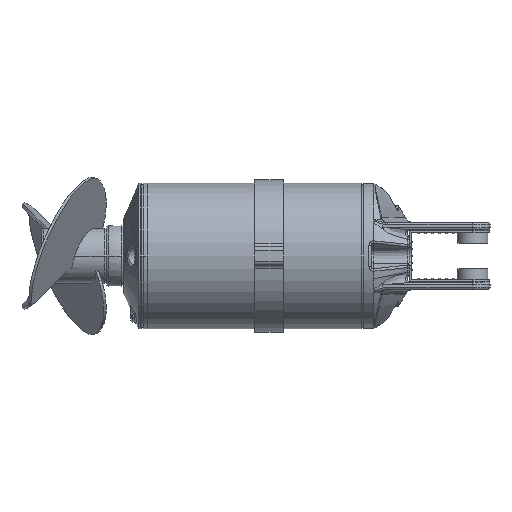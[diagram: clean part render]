
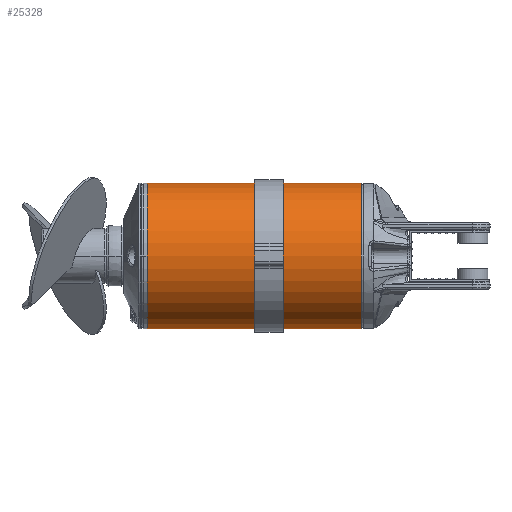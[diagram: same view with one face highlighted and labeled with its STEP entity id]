
A CAD part, front view. The second image highlights one B-rep face of the part: STEP entity #25328.
In plain terms, the highlighted cylindrical face has radius 103.811 mm (diameter 207.621 mm), a partial arc.
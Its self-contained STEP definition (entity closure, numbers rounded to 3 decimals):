
#662 = CIRCLE ( 'NONE', #5932, 103.81 ) ;
#666 = EDGE_CURVE ( 'NONE', #18447, #1056, #39347, .T. ) ;
#1056 = VERTEX_POINT ( 'NONE', #54484 ) ;
#2145 = CARTESIAN_POINT ( 'NONE',  ( -239.295, -75.155, 0. ) ) ;
#2191 = ORIENTED_EDGE ( 'NONE', *, *, #10460, .T. ) ;
#2976 = CIRCLE ( 'NONE', #8775, 103.81 ) ;
#3561 = EDGE_CURVE ( 'NONE', #1056, #18973, #2976, .T. ) ;
#3648 = CARTESIAN_POINT ( 'NONE',  ( -239.295, -75.155, -103.811 ) ) ;
#4117 = CARTESIAN_POINT ( 'NONE',  ( -239.295, -75.155, 0. ) ) ;
#4932 = DIRECTION ( 'NONE',  ( -1., 0., 0. ) ) ;
#5932 = AXIS2_PLACEMENT_3D ( 'NONE', #30755, #4932, #35048 ) ;
#6235 = AXIS2_PLACEMENT_3D ( 'NONE', #22869, #31589, #48919 ) ;
#6579 = VECTOR ( 'NONE', #29475, 1000. ) ;
#6892 = ORIENTED_EDGE ( 'NONE', *, *, #666, .F. ) ;
#7757 = DIRECTION ( 'NONE',  ( 0., 0., 1. ) ) ;
#8775 = AXIS2_PLACEMENT_3D ( 'NONE', #2145, #53630, #14442 ) ;
#9606 = DIRECTION ( 'NONE',  ( -1., 0., 0. ) ) ;
#10460 = EDGE_CURVE ( 'NONE', #14362, #18973, #35351, .T. ) ;
#14362 = VERTEX_POINT ( 'NONE', #42863 ) ;
#14442 = DIRECTION ( 'NONE',  ( 0., 0., 1. ) ) ;
#14795 = CARTESIAN_POINT ( 'NONE',  ( -239.295, -75.155, 103.81 ) ) ;
#16597 = ORIENTED_EDGE ( 'NONE', *, *, #45124, .T. ) ;
#18362 = AXIS2_PLACEMENT_3D ( 'NONE', #4117, #9606, #7757 ) ;
#18447 = VERTEX_POINT ( 'NONE', #25730 ) ;
#18510 = ORIENTED_EDGE ( 'NONE', *, *, #52530, .F. ) ;
#18973 = VERTEX_POINT ( 'NONE', #32421 ) ;
#19768 = ORIENTED_EDGE ( 'NONE', *, *, #3561, .F. ) ;
#22869 = CARTESIAN_POINT ( 'NONE',  ( -239.295, -75.155, 0. ) ) ;
#25328 = ADVANCED_FACE ( 'NONE', ( #55973 ), #27634, .T. ) ;
#25730 = CARTESIAN_POINT ( 'NONE',  ( -239.295, -75.155, -103.811 ) ) ;
#27634 = CYLINDRICAL_SURFACE ( 'NONE', #6235, 103.81 ) ;
#29474 = LINE ( 'NONE', #3648, #6579 ) ;
#29475 = DIRECTION ( 'NONE',  ( -1., 0., 0. ) ) ;
#30755 = CARTESIAN_POINT ( 'NONE',  ( 65.705, -75.155, 0. ) ) ;
#31589 = DIRECTION ( 'NONE',  ( -1., 0., 0. ) ) ;
#32421 = CARTESIAN_POINT ( 'NONE',  ( -239.295, -75.155, 103.81 ) ) ;
#33120 = CARTESIAN_POINT ( 'NONE',  ( 65.705, -75.155, -103.811 ) ) ;
#35048 = DIRECTION ( 'NONE',  ( 0., 0., 1. ) ) ;
#35351 = LINE ( 'NONE', #14795, #45503 ) ;
#39347 = CIRCLE ( 'NONE', #18362, 103.81 ) ;
#42863 = CARTESIAN_POINT ( 'NONE',  ( 65.705, -75.155, 103.81 ) ) ;
#42981 = VERTEX_POINT ( 'NONE', #33120 ) ;
#44963 = DIRECTION ( 'NONE',  ( -1., 0., 0. ) ) ;
#45124 = EDGE_CURVE ( 'NONE', #42981, #14362, #662, .T. ) ;
#45503 = VECTOR ( 'NONE', #44963, 1000. ) ;
#48919 = DIRECTION ( 'NONE',  ( 0., 0., 1. ) ) ;
#52164 = EDGE_LOOP ( 'NONE', ( #18510, #16597, #2191, #19768, #6892 ) ) ;
#52530 = EDGE_CURVE ( 'NONE', #42981, #18447, #29474, .T. ) ;
#53630 = DIRECTION ( 'NONE',  ( -1., 0., 0. ) ) ;
#54484 = CARTESIAN_POINT ( 'NONE',  ( -239.295, -178.966, 0. ) ) ;
#55973 = FACE_OUTER_BOUND ( 'NONE', #52164, .T. ) ;
